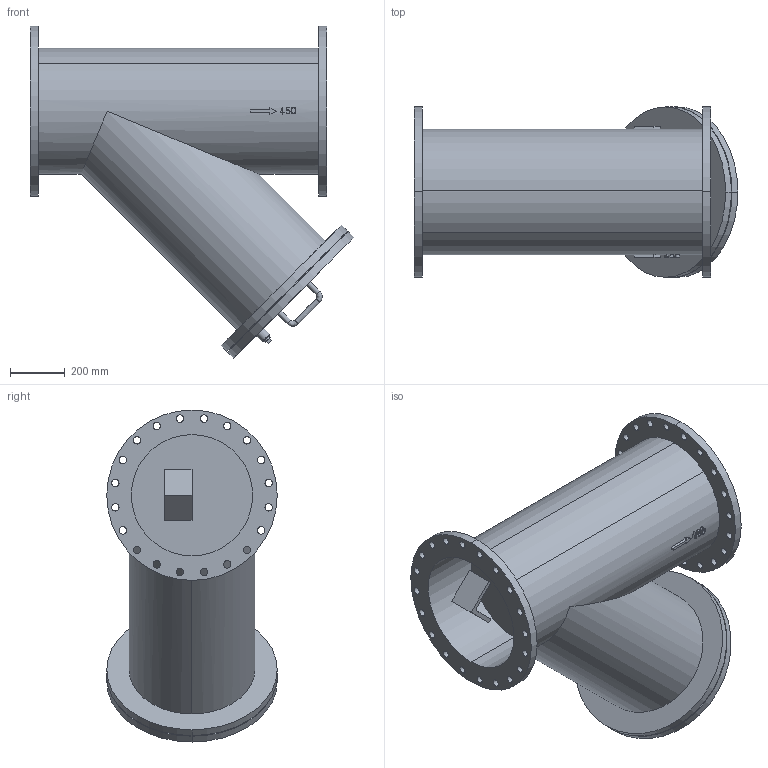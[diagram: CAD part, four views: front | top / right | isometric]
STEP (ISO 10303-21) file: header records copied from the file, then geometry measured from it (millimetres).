
FILE_DESCRIPTION( (''), '2;1');
FILE_NAME ('PC1056.8336.SY-13(450A)_25364.stp','2024-08-19T16:10:22',(''),(''),'spGate 19.8.4 (****-****-****-****)','','');
FILE_SCHEMA (('AUTOMOTIVE_DESIGN'));
Length unit declared in the file: millimetre
Products named in the file (9): Assembly; SY13(450A)本体P; 450Aカバー; CP_山形鋼(等辺)_L-130x130x15x100_9; 450A取っ手_M7; 450A取っ手_M8; 450A取っ手_M9; 450A取っ手_M10; プラグ　20A
Assembly tree (12 placements, depth 2):
  Assembly
    SY13(450A)本体P
    450Aカバー
    CP_山形鋼(等辺)_L-130x130x15x100_9
    450A取っ手_M7  x2
    450A取っ手_M8  x2
    450A取っ手_M9  x2
    450A取っ手_M10  x2
    プラグ　20A
Bounding box: 1178.03 x 620 x 1208.03 mm (x, y, z)
Volume: 252176094.2 mm3; surface area: 4984012.9 mm2
Topology: 12 solids, 12 shells, 277 faces, 654 edges, 422 vertices
Faces by surface type: cylinder 152, plane 85, bspline 40
Entity records: 14800 total; most frequent: CARTESIAN_POINT 3546, ORIENTED_EDGE 1252, DIRECTION 1215, COLOUR_RGB 893, PRESENTATION_STYLE_ASSIGNMENT 893, STYLED_ITEM 893, EDGE_CURVE 626, DRAUGHTING_PRE_DEFINED_CURVE_FONT 626
